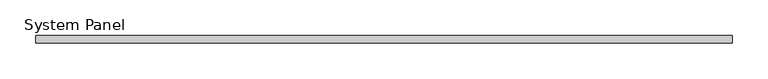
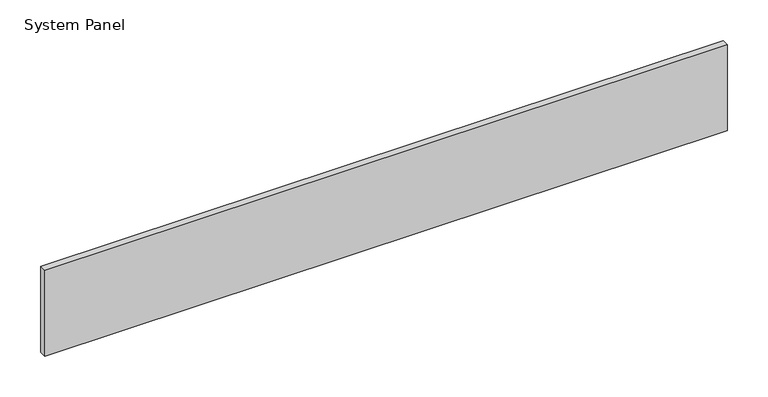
"""IFC4 building model written with IfcOpenShell, lengths in millimetres: plate geometry, System Panel : VACÍO."""

from ifc_helpers import new_model, si_unit, origin, origin_with_axes, place, context, project, spatial, polyline, outline, extrude, source, transform, mapped, element, save


def system_panel_cfc7fda5(model_context):
    return source(origin(), model_context, "Body", "SweptSolid", [
        extrude(outline(polyline([(483.7585063, -5.0), (-483.7585063, -5.0), (-483.7585063, 5.0), (483.7585063, 5.0), (483.7585063, -5.0)])), origin_with_axes(), (0.0, 0.0, 1.0), 128.8571429),
    ])


if __name__ == "__main__":
    model = new_model("IFC4")
    model_context = context("Model", 3, world=origin())
    ifc_project = project(units=[si_unit("LENGTHUNIT", "METRE", prefix="MILLI")], contexts=[model_context])
    site = spatial("IfcSite", under=ifc_project)
    building = spatial("IfcBuilding", under=site)
    placement = place(None, origin())
    system_panel_shape = system_panel_cfc7fda5(model_context)
    element("IfcPlate", 1, ObjectType="System Panel : VACÍO", at=placement, inside=building, context=model_context, shape_type="MappedRepresentation", body=[
        mapped(system_panel_shape, transform((0.0, 0.0, 0.0), x_axis=(1.0, 0.0, 0.0), y_axis=(0.0, 1.0, 0.0), z_axis=(0.0, 0.0, 1.0))),
    ])
    save(model, "model.ifc")
